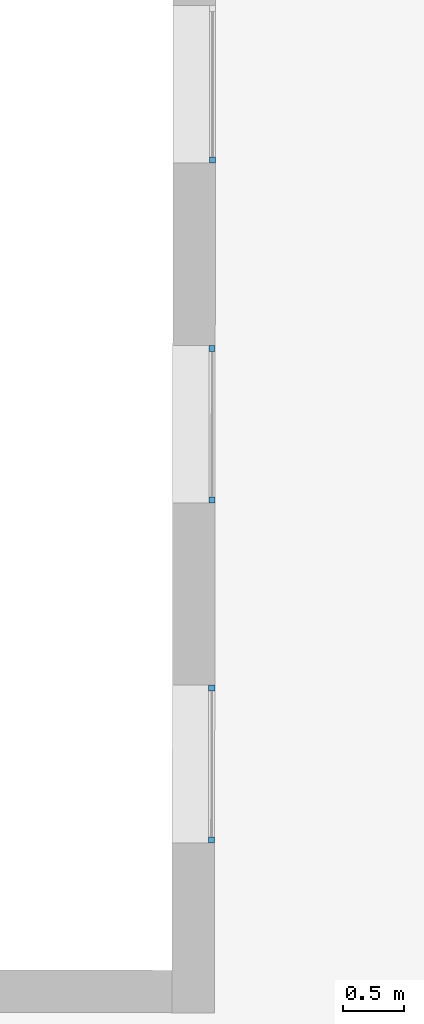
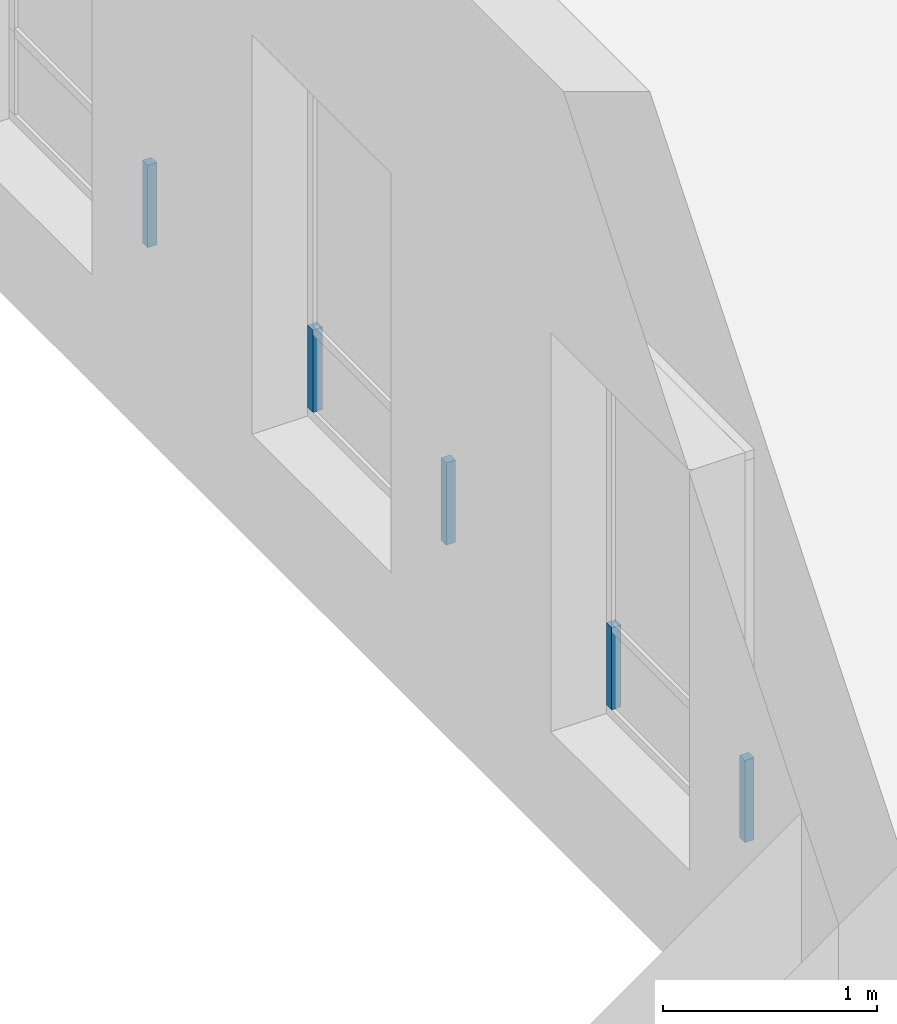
# One storey, part 20 of 35: 5 members, 3 elements without a shape of their own.
"""IFC2X3 building model written with IfcOpenShell, lengths in metres."""

import ifcopenshell
import ifcopenshell.guid

model = None  # the IFC model being written
_history = None  # IfcOwnerHistory: only IFC2X3 demands one
_inside = {}  # id of a spatial element -> (the spatial element, [elements in it])
_under = {}  # id of a project, library or spatial element -> (it, [spatial elements below it])
_declared = {}  # id of a project -> (the project, [libraries it declares])
_typed = {}  # id of a type object -> (the type object, [elements of that type])
_made_of = {}  # id of a material, layer set ... -> (it, [elements and type objects made of it])


def new_model(schema):
    """Start an empty IFC model of exactly this schema.

    Asked for "IFC4X3", IfcOpenShell would pick the latest addendum, in which some entities
    have other attributes; the version numbers below select the first issue.
    IFC2X3 requires an IfcOwnerHistory on every rooted entity: one is made here for all.
    """
    global model, _history
    if schema == "IFC4X3":
        model = ifcopenshell.file(schema_version=(4, 3, 0, 0))
    else:
        model = ifcopenshell.file(schema=schema)
    _inside.clear()
    _under.clear()
    _declared.clear()
    _typed.clear()
    _made_of.clear()
    _history = None
    if model.schema == "IFC2X3":
        org = make("IfcOrganization", Name="unknown")
        user = make(
            "IfcPersonAndOrganization",
            ThePerson=make("IfcPerson", FamilyName="unknown"),
            TheOrganization=org,
        )
        app = make(
            "IfcApplication",
            ApplicationDeveloper=org,
            Version="unknown",
            ApplicationFullName="unknown",
            ApplicationIdentifier="unknown",
        )
        _history = make(
            "IfcOwnerHistory",
            OwningUser=user,
            OwningApplication=app,
            ChangeAction="ADDED",
            CreationDate=0,
        )
    return model


def make(cls, **values):
    """One entity of the class cls with the attributes given. An attribute that is None is left unset."""
    return model.create_entity(
        cls, **{name: value for name, value in values.items() if value is not None}
    )


def entity(cls, *values):
    """Any entity or typed value of the class cls, its attributes in the order of the schema. None: left unset."""
    e = model.create_entity(cls)
    for i, value in enumerate(values):
        if value is not None:
            e[i] = value
    return e


def rooted(cls, **values):
    """An entity with a GlobalId (a new one), such as an element, a storey or a relation."""
    return make(cls, GlobalId=ifcopenshell.guid.new(), OwnerHistory=_history, **values)


def si_unit(unit_type, name, prefix=None):
    """IfcSIUnit, for example si_unit("LENGTHUNIT", "METRE", prefix="MILLI")."""
    return make("IfcSIUnit", UnitType=unit_type, Prefix=prefix, Name=name)


def converted_unit(unit_type, name, factor, base, dimensions=None, offset=None):
    """IfcConversionBasedUnit, such as the inch: factor (a typed value) times the base unit."""
    return make(
        "IfcConversionBasedUnit"
        if offset is None
        else "IfcConversionBasedUnitWithOffset",
        ConversionOffset=offset,
        Dimensions=None
        if dimensions is None
        else entity("IfcDimensionalExponents", *dimensions),
        UnitType=unit_type,
        Name=name,
        ConversionFactor=make(
            "IfcMeasureWithUnit", ValueComponent=factor, UnitComponent=base
        ),
    )


def derived_unit(unit_type, elements):
    """IfcDerivedUnit: a product of units, each with its exponent."""
    return make(
        "IfcDerivedUnit",
        Elements=[
            make("IfcDerivedUnitElement", Unit=unit, Exponent=power)
            for unit, power in elements
        ],
        UnitType=unit_type,
    )


def assignment(units):
    """IfcUnitAssignment: the units of a project."""
    return None if units is None else make("IfcUnitAssignment", Units=units)


def point(xyz):
    """IfcCartesianPoint."""
    return None if xyz is None else make("IfcCartesianPoint", Coordinates=xyz)


def direction(xyz):
    """IfcDirection."""
    return None if xyz is None else make("IfcDirection", DirectionRatios=xyz)


def frame(location, z_axis=None, x_axis=None):
    """IfcAxis2Placement3D, a coordinate frame: its origin and axes. An axis left out is left unset."""
    return make(
        "IfcAxis2Placement3D",
        Location=point(location),
        Axis=direction(z_axis),
        RefDirection=direction(x_axis),
    )


def frame_2d(location, x_axis=None):
    """IfcAxis2Placement2D, a coordinate frame in the plane: its origin and x axis."""
    return make(
        "IfcAxis2Placement2D", Location=point(location), RefDirection=direction(x_axis)
    )


def origin():
    """The frame at (0, 0, 0) with its axes left unset."""
    return frame((0.0, 0.0, 0.0))


def origin_2d_with_axis():
    """The frame at (0, 0) in the plane with the x axis (1, 0) written out."""
    return frame_2d((0.0, 0.0), x_axis=(1.0, 0.0))


def place(relative_to, where):
    """IfcLocalPlacement: puts the frame where relative to a parent placement (None: the world)."""
    return make(
        "IfcLocalPlacement", PlacementRelTo=relative_to, RelativePlacement=where
    )


def context(
    kind, dimensions, precision=None, world=None, true_north=None, identifier=None
):
    """IfcGeometricRepresentationContext, for example the 3D "Model" context."""
    return make(
        "IfcGeometricRepresentationContext",
        ContextIdentifier=identifier,
        ContextType=kind,
        CoordinateSpaceDimension=dimensions,
        Precision=precision,
        WorldCoordinateSystem=world,
        TrueNorth=true_north,
    )


def subcontext(parent, identifier, kind, view, scale=None):
    """IfcGeometricRepresentationSubContext, for example "Body" below "Model"."""
    return make(
        "IfcGeometricRepresentationSubContext",
        ContextIdentifier=identifier,
        ContextType=kind,
        ParentContext=parent,
        TargetScale=scale,
        TargetView=view,
    )


def project(units=None, contexts=None):
    """IfcProject with its units and contexts."""
    return rooted(
        "IfcProject",
        Name="project",
        RepresentationContexts=contexts,
        UnitsInContext=assignment(units),
    )


def spatial(cls, under=None, at=None, **own):
    """A site, building, storey or space (cls), placed at a placement, below another one or the project."""
    s = rooted(cls, ObjectPlacement=at, **own)
    if under is not None:
        _under.setdefault(under.id(), (under, []))[1].append(s)
    return s


def profile(cls, at=None, kind="AREA", **sizes):
    """A parametric profile (cls). Its sizes go by their IFC names, for example OverallWidth=200.0."""
    return make(cls, ProfileType=kind, Position=at, **sizes)


def rectangle(**sizes):
    """IfcRectangleProfileDef."""
    return profile("IfcRectangleProfileDef", **sizes)


def extrude(swept, where, along, depth):
    """IfcExtrudedAreaSolid: the profile swept, set in the frame where, extruded along a direction by depth."""
    return make(
        "IfcExtrudedAreaSolid",
        SweptArea=swept,
        Position=where,
        ExtrudedDirection=direction(along),
        Depth=depth,
    )


def shape(context_of_items, identifier, shape_type, items):
    """IfcShapeRepresentation: the items that make up one representation, for example the "Body"."""
    return make(
        "IfcShapeRepresentation",
        ContextOfItems=context_of_items,
        RepresentationIdentifier=identifier,
        RepresentationType=shape_type,
        Items=items,
    )


def source(mapping_origin, context_of_items, identifier, shape_type, items):
    """IfcRepresentationMap: a shape defined once, which mapped items show again and again."""
    return make(
        "IfcRepresentationMap",
        MappingOrigin=mapping_origin,
        MappedRepresentation=shape(context_of_items, identifier, shape_type, items),
    )


def transform(
    local_origin,
    x_axis=None,
    y_axis=None,
    z_axis=None,
    scale=None,
    scale2=None,
    scale3=None,
    uniform=True,
):
    """IfcCartesianTransformationOperator3D, or its non-uniform kind. x_axis, y_axis, z_axis: its Axis1, 2, 3."""
    if uniform:
        return make(
            "IfcCartesianTransformationOperator3D",
            Axis1=direction(x_axis),
            Axis2=direction(y_axis),
            LocalOrigin=point(local_origin),
            Scale=scale,
            Axis3=direction(z_axis),
        )
    return make(
        "IfcCartesianTransformationOperator3DnonUniform",
        Axis1=direction(x_axis),
        Axis2=direction(y_axis),
        LocalOrigin=point(local_origin),
        Scale=scale,
        Axis3=direction(z_axis),
        Scale2=scale2,
        Scale3=scale3,
    )


def mapped(mapping_source, mapping_target):
    """IfcMappedItem: shows the shape of a source again, moved by a transform."""
    return make(
        "IfcMappedItem", MappingSource=mapping_source, MappingTarget=mapping_target
    )


def material(Name=None, Category=None):
    """IfcMaterial."""
    return make("IfcMaterial", Name=Name, Category=Category)


def made_of(thing, what):
    """Note that an element or type object is made of a material, layer set ...; save() writes the relation."""
    if what is not None:
        _made_of.setdefault(what.id(), (what, []))[1].append(thing)
    return thing


def type_object(cls, material=None, **own):
    """A type object (cls), such as IfcWallType, which elements share."""
    return made_of(rooted(cls, **own), material)


def type_shapes(of_type, sources):
    """Give a type object the sources (RepresentationMaps) that its elements show as mapped items."""
    of_type.RepresentationMaps = sources


def element(
    cls,
    number,
    at=None,
    inside=None,
    cuts=None,
    type_object=None,
    material=None,
    context=None,
    identifier="Body",
    shape_type=None,
    held_by="IfcProductDefinitionShape",
    body=None,
    shapes=None,
    **own,
):
    """One element of the class cls, such as IfcWall. Its Tag is "e" and its number.

    at: its placement. inside: the storey or other place that contains it. cuts: it is an
    opening in that element (IfcRelVoidsElement). A single representation is given by context,
    identifier, shape_type and body (its items); several are given by shapes. held_by: the class
    of the entity that holds the representations. save() writes the other relations.
    """
    e = rooted(cls, Tag="e%d" % number, ObjectPlacement=at, **own)
    if body is not None:
        shapes = [shape(context, identifier, shape_type, body)]
    if shapes is not None:
        e.Representation = make(held_by, Representations=shapes)
    if inside is not None:
        _inside.setdefault(inside.id(), (inside, []))[1].append(e)
    if cuts is not None:
        rooted(
            "IfcRelVoidsElement", RelatingBuildingElement=cuts, RelatedOpeningElement=e
        )
    if type_object is not None:
        _typed.setdefault(type_object.id(), (type_object, []))[1].append(e)
    return made_of(e, material)


def aggregate(whole, parts):
    """IfcRelAggregates: a whole, such as a stair, and the parts it consists of."""
    return rooted("IfcRelAggregates", RelatingObject=whole, RelatedObjects=parts)


def save(model, path):
    """Write the relations noted so far, then the file.

    IfcRelAggregates (storeys below a building ...), IfcRelContainedInSpatialStructure (elements
    in a storey), IfcRelDefinesByType, IfcRelAssociatesMaterial and IfcRelDeclares: one each for
    every whole, place, type object, material and project.
    """
    for whole, parts in _under.values():
        aggregate(whole, parts)
    for where, things in _inside.values():
        rooted(
            "IfcRelContainedInSpatialStructure",
            RelatedElements=things,
            RelatingStructure=where,
        )
    for kind, things in _typed.values():
        rooted("IfcRelDefinesByType", RelatedObjects=things, RelatingType=kind)
    for what, things in _made_of.values():
        rooted("IfcRelAssociatesMaterial", RelatedObjects=things, RelatingMaterial=what)
    for by, libraries in _declared.values():
        rooted("IfcRelDeclares", RelatingContext=by, RelatedDefinitions=libraries)
    model.write(path)


model = new_model("IFC2X3")

# Units and contexts
model_context = context("Model", 3, precision=1e-05, world=origin(), true_north=direction((6.123233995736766e-17, 1.0)))
body_context = subcontext(model_context, "Body", "Model", "MODEL_VIEW")
ifc_project = project(units=[si_unit("LENGTHUNIT", "METRE"), si_unit("AREAUNIT", "SQUARE_METRE"), converted_unit("PLANEANGLEUNIT", "DEGREE", entity("IfcPlaneAngleMeasure", 0.017453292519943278), si_unit("PLANEANGLEUNIT", "RADIAN"), dimensions=[0, 0, 0, 0, 0, 0, 0]), derived_unit("THERMALTRANSMITTANCEUNIT", [(si_unit("MASSUNIT", "GRAM", prefix="KILO"), 1), (si_unit("THERMODYNAMICTEMPERATUREUNIT", "KELVIN"), -1), (si_unit("TIMEUNIT", "SECOND"), -3)])], contexts=[model_context])

# Site, building, storey
site_placement = place(None, frame((1253.6752467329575, 2072.143113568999, 91.49999999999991), z_axis=(0.0, 0.0, 1.0), x_axis=(0.7237211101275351, 0.6900925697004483, 0.0)))
site = spatial("IfcSite", under=ifc_project, at=site_placement, Name="Surface", CompositionType="ELEMENT")
building_placement = place(site_placement, origin())
building = spatial("IfcBuilding", under=site, at=building_placement, CompositionType="ELEMENT")
storey_placement = place(building_placement, frame((0.0, 0.0, 3.549999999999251)))
storey = spatial("IfcBuildingStorey", under=building, at=storey_placement, Name="1-R+1", CompositionType="ELEMENT", Elevation=3.549999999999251)

# Curtain wall, member
curtain_wall_type = type_object("IfcCurtainWallType", Name="Mur-rideau:Menuiserie Ext 1F+1OB VERTIC", PredefinedType="NOTDEFINED")
curtain_wall_1_placement = place(storey_placement, frame((0.0, 0.0, -3.549999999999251)))
curtain_wall_1 = element("IfcCurtainWall", 1, at=curtain_wall_1_placement, inside=storey, type_object=curtain_wall_type, Name="Mur-rideau:Menuiserie Ext 1F+1OB VERTIC", ObjectType="Mur-rideau:Menuiserie Ext 1F+1OB VERTIC")
ifc_material = material(Name="OMD_Aluminium Men Ext")
member_type_1 = type_object("IfcMemberType", Name="Meneau rectangulaire:50x50", PredefinedType="MULLION", material=ifc_material)
shared_shape_1 = source(origin(), body_context, "Body", "SweptSolid", [
    extrude(rectangle(XDim=0.05, YDim=0.049999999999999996, at=origin_2d_with_axis()), frame((-0.025, 0.0, -0.4699999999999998), z_axis=(0.0, 0.0, 1.0), x_axis=(-1.0, 0.0, 0.0)), (0.0, 0.0, 1.0), 0.4699999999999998),
])
type_shapes(member_type_1, [shared_shape_1])
member_1_placement = place(curtain_wall_1_placement, frame((179.1705476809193, -10.02889199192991, 4.219999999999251), z_axis=(0.0, 0.0, -1.0), x_axis=(0.6909838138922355, 0.7228702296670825, 0.0)))
member_1 = element("IfcMember", 2, at=member_1_placement, type_object=member_type_1, material=ifc_material, Name="Meneau rectangulaire:50x50", ObjectType="Meneau rectangulaire:50x50", context=body_context, shape_type="MappedRepresentation", body=[
    mapped(shared_shape_1, transform((0.0, 0.0, 0.0), scale=1.0)),
])

curtain_wall_2_placement = place(storey_placement, frame((0.0, 0.0, -3.549999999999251)))
curtain_wall_2 = element("IfcCurtainWall", 3, at=curtain_wall_2_placement, inside=storey, type_object=curtain_wall_type, Name="Mur-rideau:Menuiserie Ext 1F+1OB VERTIC", ObjectType="Mur-rideau:Menuiserie Ext 1F+1OB VERTIC")
member_2_placement = place(curtain_wall_2_placement, frame((177.2357930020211, -12.05292863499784, 4.219999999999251), z_axis=(0.0, 0.0, -1.0), x_axis=(0.6909838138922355, 0.7228702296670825, 0.0)))
member_2 = element("IfcMember", 4, at=member_2_placement, type_object=member_type_1, material=ifc_material, Name="Meneau rectangulaire:50x50", ObjectType="Meneau rectangulaire:50x50", context=body_context, shape_type="MappedRepresentation", body=[
    mapped(shared_shape_1, transform((0.0, 0.0, 0.0), scale=1.0)),
])

curtain_wall_3_placement = place(storey_placement, frame((0.0, 0.0, -3.549999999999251)))
curtain_wall_3 = element("IfcCurtainWall", 5, at=curtain_wall_3_placement, inside=storey, type_object=curtain_wall_type, Name="Mur-rideau:Menuiserie Ext 1F+1OB VERTIC", ObjectType="Mur-rideau:Menuiserie Ext 1F+1OB VERTIC")
member_type_2 = type_object("IfcMemberType", Name="Meneau rectangulaire:50x50", PredefinedType="MULLION", material=ifc_material)
shared_shape_2 = source(origin(), body_context, "Body", "SweptSolid", [
    extrude(rectangle(XDim=0.05, YDim=0.049999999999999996, at=origin_2d_with_axis()), frame((-0.025, 0.0, -0.4699999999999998), z_axis=(0.0, 0.0, 1.0), x_axis=(-1.0, 0.0, 0.0)), (0.0, 0.0, 1.0), 0.4699999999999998),
])
type_shapes(member_type_2, [shared_shape_2])
member_3_placement = place(curtain_wall_3_placement, frame((180.20723352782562, -8.944366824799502, 4.689999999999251), z_axis=(0.0, 0.0, 1.0), x_axis=(-0.6909838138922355, -0.7228702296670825, 0.0)))
member_3 = element("IfcMember", 6, at=member_3_placement, type_object=member_type_2, material=ifc_material, Name="Meneau rectangulaire:50x50", ObjectType="Meneau rectangulaire:50x50", context=body_context, shape_type="MappedRepresentation", body=[
    mapped(shared_shape_2, transform((0.0, 0.0, 0.0), scale=1.0)),
])
aggregate(curtain_wall_3, [member_3])

# Member
member_4_placement = place(curtain_wall_1_placement, frame((178.27247884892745, -10.968403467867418, 4.689999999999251), z_axis=(0.0, 0.0, 1.0), x_axis=(-0.6909838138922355, -0.7228702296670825, 0.0)))
member_4 = element("IfcMember", 7, at=member_4_placement, type_object=member_type_2, material=ifc_material, Name="Meneau rectangulaire:50x50", ObjectType="Meneau rectangulaire:50x50", context=body_context, shape_type="MappedRepresentation", body=[
    mapped(shared_shape_2, transform((0.0, 0.0, 0.0), scale=1.0)),
])

aggregate(curtain_wall_1, [member_1, member_4])

member_5_placement = place(curtain_wall_2_placement, frame((176.33772417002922, -12.992440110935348, 4.689999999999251), z_axis=(0.0, 0.0, 1.0), x_axis=(-0.6909838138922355, -0.7228702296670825, 0.0)))
member_5 = element("IfcMember", 8, at=member_5_placement, type_object=member_type_2, material=ifc_material, Name="Meneau rectangulaire:50x50", ObjectType="Meneau rectangulaire:50x50", context=body_context, shape_type="MappedRepresentation", body=[
    mapped(shared_shape_2, transform((0.0, 0.0, 0.0), scale=1.0)),
])

aggregate(curtain_wall_2, [member_2, member_5])

save(model, "model.ifc")
